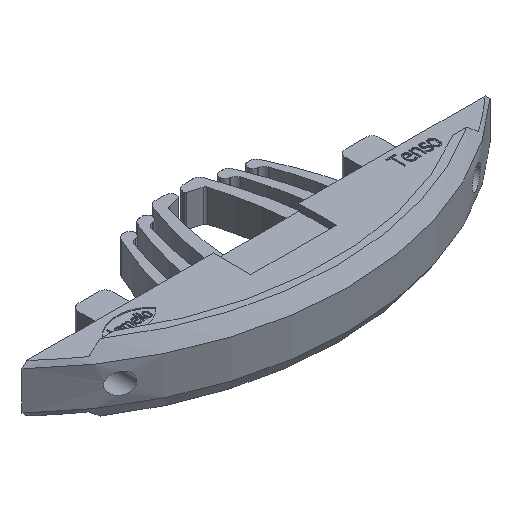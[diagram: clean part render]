
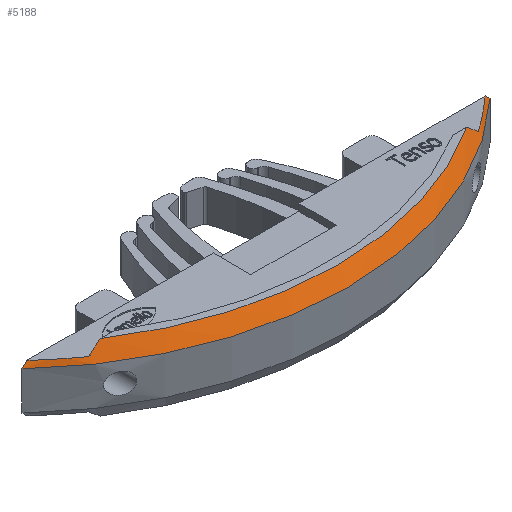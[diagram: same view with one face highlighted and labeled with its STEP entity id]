
A CAD part, isometric view. The second image highlights one B-rep face of the part: STEP entity #5188.
In plain terms, the highlighted conical face has half-angle 35 degrees and reference radius 48.542 mm.
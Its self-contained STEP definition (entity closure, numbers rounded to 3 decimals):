
#16=CONICAL_SURFACE('',#5500,48.543,0.611);
#379=(
BOUNDED_CURVE()
B_SPLINE_CURVE(2,(#6626,#6627,#6628),.UNSPECIFIED.,.F.,.F.)
B_SPLINE_CURVE_WITH_KNOTS((3,3),(7385.384,7460.341),
 .UNSPECIFIED.)
CURVE()
GEOMETRIC_REPRESENTATION_ITEM()
RATIONAL_B_SPLINE_CURVE((810.511,812.839,815.13))
REPRESENTATION_ITEM('')
);
#380=(
BOUNDED_CURVE()
B_SPLINE_CURVE(2,(#6633,#6634,#6635),.UNSPECIFIED.,.F.,.F.)
B_SPLINE_CURVE_WITH_KNOTS((3,3),(16964.729,17039.685),
 .UNSPECIFIED.)
CURVE()
GEOMETRIC_REPRESENTATION_ITEM()
RATIONAL_B_SPLINE_CURVE((815.13,812.839,810.511))
REPRESENTATION_ITEM('')
);
#382=(
BOUNDED_CURVE()
B_SPLINE_CURVE(2,(#9398,#9399,#9400),.UNSPECIFIED.,.F.,.F.)
B_SPLINE_CURVE_WITH_KNOTS((3,3),(8346.136,8542.464),
 .UNSPECIFIED.)
CURVE()
GEOMETRIC_REPRESENTATION_ITEM()
RATIONAL_B_SPLINE_CURVE((778.95,783.351,787.527))
REPRESENTATION_ITEM('')
);
#385=(
BOUNDED_CURVE()
B_SPLINE_CURVE(2,(#9424,#9425,#9426),.UNSPECIFIED.,.F.,.F.)
B_SPLINE_CURVE_WITH_KNOTS((3,3),(8346.136,8542.464),
 .UNSPECIFIED.)
CURVE()
GEOMETRIC_REPRESENTATION_ITEM()
RATIONAL_B_SPLINE_CURVE((778.95,783.351,787.527))
REPRESENTATION_ITEM('')
);
#473=CIRCLE('',#5360,50.);
#479=CIRCLE('',#5447,49.51);
#481=CIRCLE('',#5449,49.51);
#484=CIRCLE('',#5459,48.53);
#769=FACE_OUTER_BOUND('',#1080,.T.);
#1080=EDGE_LOOP('',(#4748,#4749,#4750,#4751,#4752,#4753,#4754,#4755));
#2017=VERTEX_POINT('',#6623);
#2018=VERTEX_POINT('',#6625);
#2019=VERTEX_POINT('',#6630);
#2020=VERTEX_POINT('',#6632);
#2482=VERTEX_POINT('',#9386);
#2485=VERTEX_POINT('',#9392);
#2486=VERTEX_POINT('',#9397);
#2493=VERTEX_POINT('',#9423);
#2533=EDGE_CURVE('',#2017,#2018,#379,.T.);
#2536=EDGE_CURVE('',#2019,#2020,#380,.T.);
#2732=EDGE_CURVE('',#2020,#2017,#473,.T.);
#3206=EDGE_CURVE('',#2482,#2018,#479,.F.);
#3210=EDGE_CURVE('',#2485,#2019,#481,.T.);
#3211=EDGE_CURVE('',#2485,#2486,#382,.T.);
#3221=EDGE_CURVE('',#2493,#2482,#385,.F.);
#3225=EDGE_CURVE('',#2493,#2486,#484,.T.);
#4748=ORIENTED_EDGE('',*,*,#3211,.T.);
#4749=ORIENTED_EDGE('',*,*,#3225,.F.);
#4750=ORIENTED_EDGE('',*,*,#3221,.T.);
#4751=ORIENTED_EDGE('',*,*,#3206,.T.);
#4752=ORIENTED_EDGE('',*,*,#2533,.F.);
#4753=ORIENTED_EDGE('',*,*,#2732,.F.);
#4754=ORIENTED_EDGE('',*,*,#2536,.F.);
#4755=ORIENTED_EDGE('',*,*,#3210,.F.);
#5188=ADVANCED_FACE('',(#769),#16,.T.);
#5360=AXIS2_PLACEMENT_3D('',#7028,#5944,#5945);
#5447=AXIS2_PLACEMENT_3D('',#9387,#6398,#6399);
#5449=AXIS2_PLACEMENT_3D('',#9394,#6404,#6405);
#5459=AXIS2_PLACEMENT_3D('',#9432,#6432,#6433);
#5500=AXIS2_PLACEMENT_3D('',#9500,#6537,#6538);
#5944=DIRECTION('center_axis',(0.,0.,-1.));
#5945=DIRECTION('ref_axis',(-0.3,-0.954,0.));
#6398=DIRECTION('center_axis',(0.,0.,1.));
#6399=DIRECTION('ref_axis',(0.707,-0.707,0.));
#6404=DIRECTION('center_axis',(0.,0.,1.));
#6405=DIRECTION('ref_axis',(0.707,-0.707,0.));
#6432=DIRECTION('center_axis',(0.,0.,1.));
#6433=DIRECTION('ref_axis',(0.707,-0.707,0.));
#6537=DIRECTION('center_axis',(0.,0.,-1.));
#6538=DIRECTION('ref_axis',(0.707,-0.707,0.));
#6623=CARTESIAN_POINT('',(-34.172,0.,2.8));
#6625=CARTESIAN_POINT('',(-33.451,0.,3.5));
#6626=CARTESIAN_POINT('Ctrl Pts',(-34.172,0.,
2.8));
#6627=CARTESIAN_POINT('Ctrl Pts',(-33.81,0.,
3.154));
#6628=CARTESIAN_POINT('Ctrl Pts',(-33.451,0.,
3.5));
#6630=CARTESIAN_POINT('',(33.451,0.,3.5));
#6632=CARTESIAN_POINT('',(34.172,0.,2.8));
#6633=CARTESIAN_POINT('Ctrl Pts',(33.451,0.,
3.5));
#6634=CARTESIAN_POINT('Ctrl Pts',(33.81,0.,
3.154));
#6635=CARTESIAN_POINT('Ctrl Pts',(34.172,0.,
2.8));
#7028=CARTESIAN_POINT('Origin',(0.,36.5,2.8));
#9386=CARTESIAN_POINT('',(-28.478,-4.,3.5));
#9387=CARTESIAN_POINT('Origin',(0.,36.5,3.5));
#9392=CARTESIAN_POINT('',(28.478,-4.,3.5));
#9394=CARTESIAN_POINT('Origin',(0.,36.5,3.5));
#9397=CARTESIAN_POINT('',(26.737,-4.,4.9));
#9398=CARTESIAN_POINT('Ctrl Pts',(28.478,-4.,3.5));
#9399=CARTESIAN_POINT('Ctrl Pts',(27.599,-4.,4.222));
#9400=CARTESIAN_POINT('Ctrl Pts',(26.737,-4.,4.9));
#9423=CARTESIAN_POINT('',(-26.737,-4.,4.9));
#9424=CARTESIAN_POINT('Ctrl Pts',(-28.478,-4.,3.5));
#9425=CARTESIAN_POINT('Ctrl Pts',(-27.599,-4.,4.222));
#9426=CARTESIAN_POINT('Ctrl Pts',(-26.737,-4.,4.9));
#9432=CARTESIAN_POINT('Origin',(0.,36.5,4.9));
#9500=CARTESIAN_POINT('Origin',(0.,36.5,4.882));
